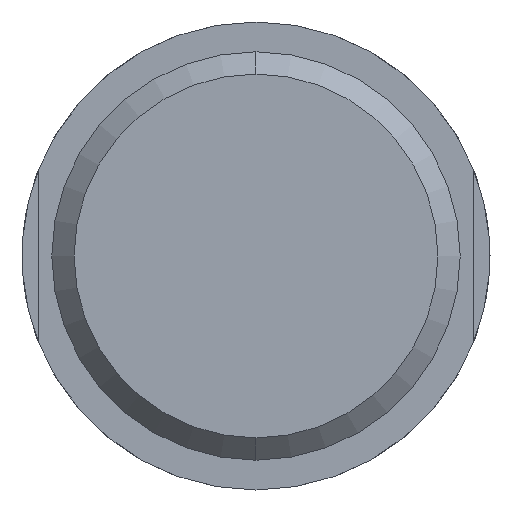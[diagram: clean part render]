
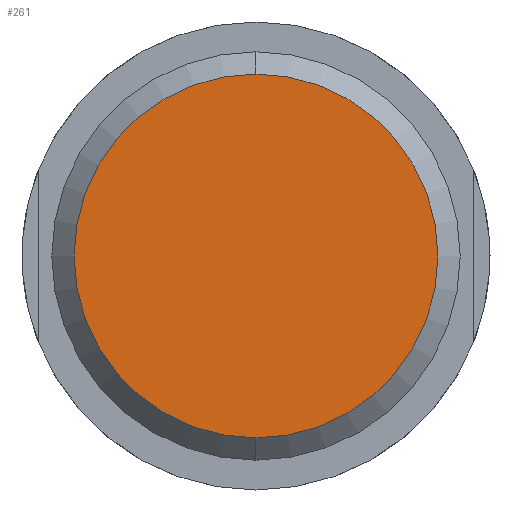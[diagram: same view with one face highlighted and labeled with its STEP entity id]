
A CAD part, left-side view. The second image highlights one B-rep face of the part: STEP entity #261.
In plain terms, the highlighted planar face has unit normal (-1, 0, 0).
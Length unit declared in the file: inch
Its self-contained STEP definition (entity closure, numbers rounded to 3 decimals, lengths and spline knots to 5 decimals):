
#4 = CIRCLE ( 'NONE', #84, 0.6802 ) ;
#5 = CIRCLE ( 'NONE', #76, 0.6802 ) ;
#60 = AXIS2_PLACEMENT_3D ( 'NONE', #541, #512, #318 ) ;
#76 = AXIS2_PLACEMENT_3D ( 'NONE', #506, #507, #515 ) ;
#84 = AXIS2_PLACEMENT_3D ( 'NONE', #403, #539, #525 ) ;
#94 = EDGE_CURVE ( 'NONE', #231, #222, #4, .T. ) ;
#117 = EDGE_CURVE ( 'NONE', #222, #231, #5, .T. ) ;
#131 = EDGE_LOOP ( 'NONE', ( #192, #160 ) ) ;
#160 = ORIENTED_EDGE ( 'NONE', *, *, #117, .F. ) ;
#192 = ORIENTED_EDGE ( 'NONE', *, *, #94, .F. ) ;
#222 = VERTEX_POINT ( 'NONE', #517 ) ;
#231 = VERTEX_POINT ( 'NONE', #355 ) ;
#261 = ADVANCED_FACE ( 'NONE', ( #577 ), #367, .F. ) ;
#318 = DIRECTION ( 'NONE',  ( 0., 0., -1. ) ) ;
#355 = CARTESIAN_POINT ( 'NONE',  ( -2.17, 0., -0.6802 ) ) ;
#367 = PLANE ( 'NONE',  #60 ) ;
#403 = CARTESIAN_POINT ( 'NONE',  ( -2.17, 0., 0. ) ) ;
#506 = CARTESIAN_POINT ( 'NONE',  ( -2.17, 0., 0. ) ) ;
#507 = DIRECTION ( 'NONE',  ( 1., 0., 0. ) ) ;
#512 = DIRECTION ( 'NONE',  ( 1., 0., 0. ) ) ;
#515 = DIRECTION ( 'NONE',  ( 0., 0., -1. ) ) ;
#517 = CARTESIAN_POINT ( 'NONE',  ( -2.17, 0., 0.6802 ) ) ;
#525 = DIRECTION ( 'NONE',  ( 0., 0., -1. ) ) ;
#539 = DIRECTION ( 'NONE',  ( 1., 0., 0. ) ) ;
#541 = CARTESIAN_POINT ( 'NONE',  ( -2.17, 0.5, 0. ) ) ;
#577 = FACE_OUTER_BOUND ( 'NONE', #131, .T. ) ;
